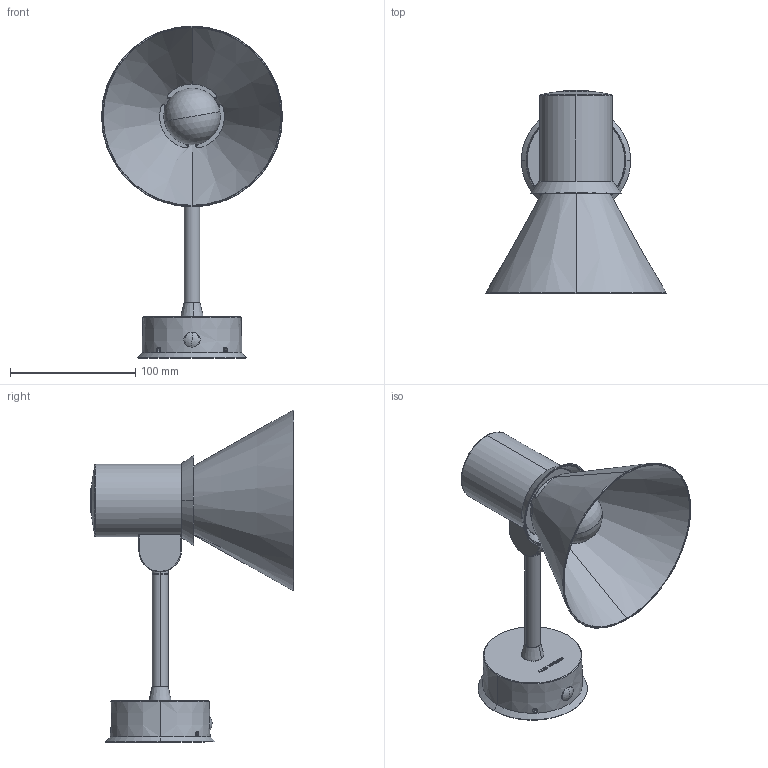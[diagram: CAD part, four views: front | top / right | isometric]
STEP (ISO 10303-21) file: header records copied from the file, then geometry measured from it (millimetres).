
FILE_DESCRIPTION (( 'STEP AP203' ), '1' );
FILE_NAME ('TYPE 80_WALL LIGHT_01.STEP', '2019-08-01T16:27:22', ( '' ), ( '' ), 'SwSTEP 2.0', 'SolidWorks 2017', '' );
FILE_SCHEMA (( 'CONFIG_CONTROL_DESIGN' ));
Length unit declared in the file: millimetre
Products named in the file (1): TYPE 80_WALL LIGHT_01
Bounding box: 144.64 x 162.39 x 265.42 mm (x, y, z)
Volume: 478226.7 mm3; surface area: 117912.9 mm2
Topology: 1 solids, 5 shells, 230 faces, 656 edges, 455 vertices
Faces by surface type: plane 85, cylinder 66, cone 39, torus 18, sphere 15, bspline 7
Entity records: 9178 total; most frequent: CARTESIAN_POINT 3211, ORIENTED_EDGE 1294, DIRECTION 1165, EDGE_CURVE 647, VERTEX_POINT 451, AXIS2_PLACEMENT_3D 442, VECTOR 281, LINE 281
